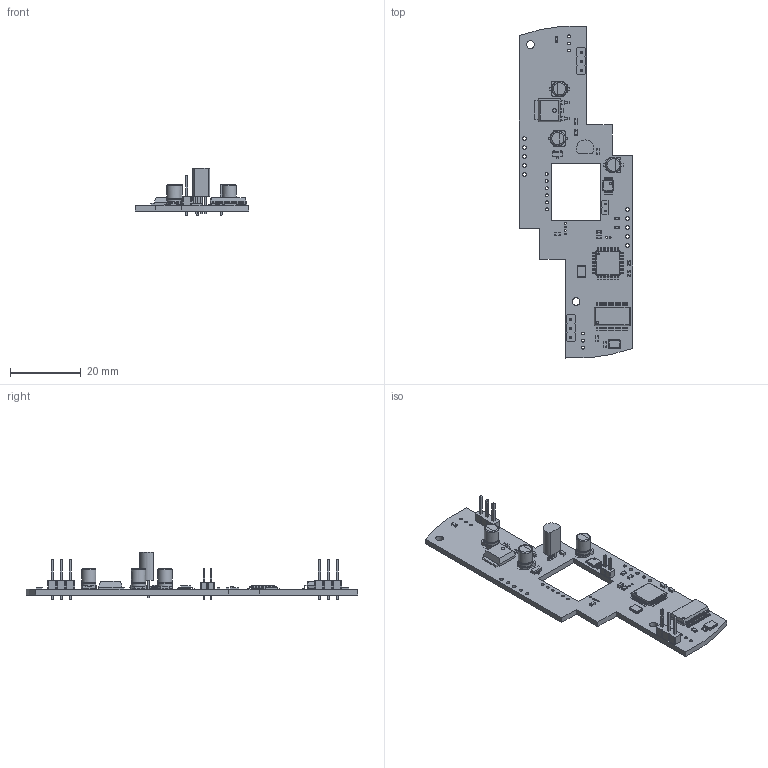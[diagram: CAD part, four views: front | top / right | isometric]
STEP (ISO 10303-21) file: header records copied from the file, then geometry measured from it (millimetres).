
FILE_DESCRIPTION(('KiCad electronic assembly'),'2;1');
FILE_NAME('lidar.step','2018-12-18T20:26:02',('An Author'),('A Company') ,'Open CASCADE STEP processor 6.9','KiCad to STEP converter','Unknown' );
FILE_SCHEMA(('AUTOMOTIVE_DESIGN { 1 0 10303 214 1 1 1 1 }'));
Length unit declared in the file: millimetre
Products named in the file (28): Open CASCADE STEP translator 6.9 1; CP_Elec_4x5.8; SOLID; C_0603_1608Metric; LED_0603_1608Metric; MSOP-10_3x3mm_P0.5mm; PinHeader_1x02_P2.00mm_Vertical; SOT-23; R_0603_1608Metric; TQFP-32_7x7mm_P0.8mm; SSOP-28_5.3x10.2mm_P0.65mm; TO-252-2; TO-92L_Inline; Crystal_SMD_3225-4Pin_3.2x2.5mm; PinHeader_1x03_P2.54mm_Vertical; COMPOUND
Assembly tree (41 placements, depth 3):
  Open CASCADE STEP translator 6.9 1
    CP_Elec_4x5.8  x3
      SOLID
    C_0603_1608Metric  x4
      SOLID
    LED_0603_1608Metric
      SOLID
    MSOP-10_3x3mm_P0.5mm
      SOLID
    PinHeader_1x02_P2.00mm_Vertical
      SOLID
    SOT-23
      SOLID
    R_0603_1608Metric  x8
      SOLID
    TQFP-32_7x7mm_P0.8mm
      SOLID
    SSOP-28_5.3x10.2mm_P0.65mm
      SOLID
    TO-252-2
      SOLID
    TO-92L_Inline
      SOLID
    Crystal_SMD_3225-4Pin_3.2x2.5mm  x2
      SOLID
    PinHeader_1x03_P2.54mm_Vertical  x2
      SOLID
    COMPOUND
Bounding box: 31.99 x 93.83 x 13.5 mm (x, y, z)
Volume: 3795.7 mm3; surface area: 6101.9 mm2
Topology: 28 solids, 28 shells, 2153 faces, 5624 edges, 3569 vertices
Faces by surface type: plane 1429, cylinder 526, bspline 183, torus 12, revolution 3
Full cylindrical faces by diameter (mm): 0.5 x9, 0.75 x3, 0.8 x14, 1 x17, 2.2 x2, 4 x6
Entity records: 135340 total; most frequent: CARTESIAN_POINT 34131, DIRECTION 16442, LINE 11213, VECTOR 11213, ORIENTED_EDGE 8948, PCURVE 8948, DEFINITIONAL_REPRESENTATION 8948, EDGE_CURVE 4474
